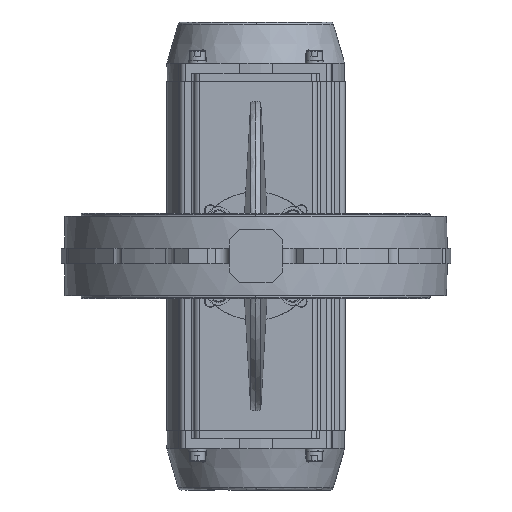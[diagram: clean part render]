
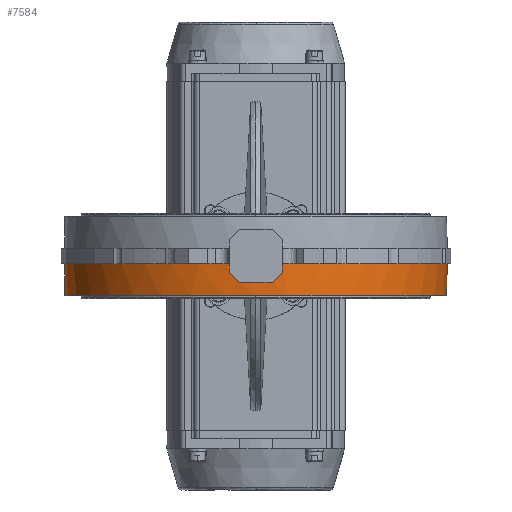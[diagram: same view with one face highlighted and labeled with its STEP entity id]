
A CAD part, front view. The second image highlights one B-rep face of the part: STEP entity #7584.
In plain terms, the highlighted conical face has half-angle 1.013 degrees and reference radius 186.548 mm.
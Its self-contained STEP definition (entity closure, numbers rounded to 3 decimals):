
#906 = VERTEX_POINT ( 'NONE', #5585 ) ;
#1186 = VERTEX_POINT ( 'NONE', #39825 ) ;
#1901 = DIRECTION ( 'NONE',  ( 1., 0., 0. ) ) ;
#2502 = CARTESIAN_POINT ( 'NONE',  ( 26., -184.677, -10.333 ) ) ;
#2597 = EDGE_CURVE ( 'NONE', #55245, #34358, #19814, .T. ) ;
#3256 = CIRCLE ( 'NONE', #24255, 186.548 ) ;
#3595 = CARTESIAN_POINT ( 'NONE',  ( 0., 0., -7.5 ) ) ;
#5585 = CARTESIAN_POINT ( 'NONE',  ( 186.548, 0., -7.5 ) ) ;
#5748 = ORIENTED_EDGE ( 'NONE', *, *, #6726, .T. ) ;
#6107 = DIRECTION ( 'NONE',  ( 1., 0., 0. ) ) ;
#6726 = EDGE_CURVE ( 'NONE', #29551, #36046, #13469, .T. ) ;
#7431 = ORIENTED_EDGE ( 'NONE', *, *, #52706, .F. ) ;
#7584 = ADVANCED_FACE ( 'NONE', ( #57108 ), #50347, .T. ) ;
#7965 = CARTESIAN_POINT ( 'NONE',  ( 26., -184.727, -7.5 ) ) ;
#8298 = DIRECTION ( 'NONE',  ( 1., 0., 0. ) ) ;
#9204 = CARTESIAN_POINT ( 'NONE',  ( -16., -185.532, -26. ) ) ;
#11910 = CARTESIAN_POINT ( 'NONE',  ( -22.676, -184.985, -19.324 ) ) ;
#12113 = B_SPLINE_CURVE_WITH_KNOTS ( 'NONE', 3,
 ( #7965, #2502, #36048, #24750 ),
 .UNSPECIFIED., .F., .F.,
 ( 4, 4 ),
 ( 0., 1. ),
 .UNSPECIFIED. ) ;
#12306 = CARTESIAN_POINT ( 'NONE',  ( 19.342, -185.304, -22.658 ) ) ;
#12570 = AXIS2_PLACEMENT_3D ( 'NONE', #3595, #25837, #6107 ) ;
#13062 = CARTESIAN_POINT ( 'NONE',  ( 26., -184.727, -7.5 ) ) ;
#13077 = VERTEX_POINT ( 'NONE', #17762 ) ;
#13383 = CARTESIAN_POINT ( 'NONE',  ( 0., 0., -7.5 ) ) ;
#13469 =( BOUNDED_CURVE ( )  B_SPLINE_CURVE ( 3, ( #46507, #30143, #12306, #45791 ),
 .UNSPECIFIED., .F., .F. ) 
 B_SPLINE_CURVE_WITH_KNOTS ( ( 4, 4 ),
 ( 1.448, 1.502 ),
 .UNSPECIFIED. ) 
 CURVE ( )  GEOMETRIC_REPRESENTATION_ITEM ( )  RATIONAL_B_SPLINE_CURVE ( ( 1., 1., 1., 1. ) ) 
 REPRESENTATION_ITEM ( '' )  );
#14284 = EDGE_CURVE ( 'NONE', #906, #33794, #3256, .T. ) ;
#15527 = EDGE_CURVE ( 'NONE', #21615, #13077, #71485, .T. ) ;
#17065 = CARTESIAN_POINT ( 'NONE',  ( -26., -184.727, -7.5 ) ) ;
#17762 = CARTESIAN_POINT ( 'NONE',  ( 186., 0., -38.5 ) ) ;
#17962 = CARTESIAN_POINT ( 'NONE',  ( 0., 0., -7.5 ) ) ;
#18498 = VECTOR ( 'NONE', #67276, 1000. ) ;
#19814 = B_SPLINE_CURVE_WITH_KNOTS ( 'NONE', 3,
 ( #54624, #49149, #44032, #17065 ),
 .UNSPECIFIED., .F., .F.,
 ( 4, 4 ),
 ( 0., 1. ),
 .UNSPECIFIED. ) ;
#21615 = VERTEX_POINT ( 'NONE', #25384 ) ;
#23334 = CARTESIAN_POINT ( 'NONE',  ( -26., -184.576, -16. ) ) ;
#24255 = AXIS2_PLACEMENT_3D ( 'NONE', #17962, #51839, #1901 ) ;
#24750 = CARTESIAN_POINT ( 'NONE',  ( 26., -184.576, -16. ) ) ;
#24759 = CIRCLE ( 'NONE', #48015, 186.221 ) ;
#25384 = CARTESIAN_POINT ( 'NONE',  ( -186., 0., -38.5 ) ) ;
#25516 = EDGE_CURVE ( 'NONE', #66484, #55245, #69405, .T. ) ;
#25837 = DIRECTION ( 'NONE',  ( 0., 0., -1. ) ) ;
#26620 = CARTESIAN_POINT ( 'NONE',  ( 16., -185.532, -26. ) ) ;
#28564 = ORIENTED_EDGE ( 'NONE', *, *, #45666, .T. ) ;
#29551 = VERTEX_POINT ( 'NONE', #40404 ) ;
#30143 = CARTESIAN_POINT ( 'NONE',  ( 22.676, -184.985, -19.324 ) ) ;
#30576 = AXIS2_PLACEMENT_3D ( 'NONE', #13383, #41401, #62561 ) ;
#30585 = CARTESIAN_POINT ( 'NONE',  ( 0., 0., -26. ) ) ;
#33794 = VERTEX_POINT ( 'NONE', #13062 ) ;
#34332 = VECTOR ( 'NONE', #57275, 1000. ) ;
#34358 = VERTEX_POINT ( 'NONE', #70837 ) ;
#34503 = CARTESIAN_POINT ( 'NONE',  ( -19.342, -185.304, -22.658 ) ) ;
#36046 = VERTEX_POINT ( 'NONE', #26620 ) ;
#36048 = CARTESIAN_POINT ( 'NONE',  ( 26., -184.626, -13.167 ) ) ;
#36624 = ORIENTED_EDGE ( 'NONE', *, *, #15527, .T. ) ;
#39825 = CARTESIAN_POINT ( 'NONE',  ( -186.548, 0., -7.5 ) ) ;
#40404 = CARTESIAN_POINT ( 'NONE',  ( 26., -184.576, -16. ) ) ;
#41126 = EDGE_CURVE ( 'NONE', #36046, #66484, #24759, .T. ) ;
#41401 = DIRECTION ( 'NONE',  ( 0., 0., 1. ) ) ;
#43940 = CIRCLE ( 'NONE', #12570, 186.548 ) ;
#44022 = EDGE_CURVE ( 'NONE', #13077, #906, #46337, .T. ) ;
#44032 = CARTESIAN_POINT ( 'NONE',  ( -26., -184.677, -10.333 ) ) ;
#44503 = ORIENTED_EDGE ( 'NONE', *, *, #46746, .T. ) ;
#45056 = LINE ( 'NONE', #61465, #18498 ) ;
#45344 = DIRECTION ( 'NONE',  ( 0., 0., 1. ) ) ;
#45666 = EDGE_CURVE ( 'NONE', #33794, #29551, #12113, .T. ) ;
#45791 = CARTESIAN_POINT ( 'NONE',  ( 16., -185.532, -26. ) ) ;
#46088 = ORIENTED_EDGE ( 'NONE', *, *, #14284, .T. ) ;
#46337 = LINE ( 'NONE', #58004, #34332 ) ;
#46507 = CARTESIAN_POINT ( 'NONE',  ( 26., -184.576, -16. ) ) ;
#46746 = EDGE_CURVE ( 'NONE', #34358, #1186, #43940, .T. ) ;
#48015 = AXIS2_PLACEMENT_3D ( 'NONE', #30585, #58977, #8298 ) ;
#49149 = CARTESIAN_POINT ( 'NONE',  ( -26., -184.626, -13.167 ) ) ;
#50347 = CONICAL_SURFACE ( 'NONE', #30576, 186.548, 0.018 ) ;
#51839 = DIRECTION ( 'NONE',  ( 0., 0., -1. ) ) ;
#52706 = EDGE_CURVE ( 'NONE', #21615, #1186, #45056, .T. ) ;
#54624 = CARTESIAN_POINT ( 'NONE',  ( -26., -184.576, -16. ) ) ;
#55245 = VERTEX_POINT ( 'NONE', #23334 ) ;
#57108 = FACE_OUTER_BOUND ( 'NONE', #58548, .T. ) ;
#57275 = DIRECTION ( 'NONE',  ( 0.018, 0., 1. ) ) ;
#58004 = CARTESIAN_POINT ( 'NONE',  ( 186.548, 0., -7.5 ) ) ;
#58058 = ORIENTED_EDGE ( 'NONE', *, *, #41126, .T. ) ;
#58548 = EDGE_LOOP ( 'NONE', ( #7431, #36624, #65312, #46088, #28564, #5748, #58058, #59989, #63467, #44503 ) ) ;
#58977 = DIRECTION ( 'NONE',  ( 0., 0., -1. ) ) ;
#59989 = ORIENTED_EDGE ( 'NONE', *, *, #25516, .T. ) ;
#61465 = CARTESIAN_POINT ( 'NONE',  ( -186.548, 0., -7.5 ) ) ;
#61749 = CARTESIAN_POINT ( 'NONE',  ( 0., 0., -38.5 ) ) ;
#62177 = CARTESIAN_POINT ( 'NONE',  ( -16., -185.532, -26. ) ) ;
#62535 = CARTESIAN_POINT ( 'NONE',  ( -26., -184.576, -16. ) ) ;
#62561 = DIRECTION ( 'NONE',  ( 1., 0., 0. ) ) ;
#63467 = ORIENTED_EDGE ( 'NONE', *, *, #2597, .T. ) ;
#65312 = ORIENTED_EDGE ( 'NONE', *, *, #44022, .T. ) ;
#66484 = VERTEX_POINT ( 'NONE', #9204 ) ;
#67276 = DIRECTION ( 'NONE',  ( -0.018, 0., 1. ) ) ;
#67567 = DIRECTION ( 'NONE',  ( 1., 0., 0. ) ) ;
#67986 = AXIS2_PLACEMENT_3D ( 'NONE', #61749, #45344, #67567 ) ;
#69405 =( BOUNDED_CURVE ( )  B_SPLINE_CURVE ( 3, ( #62177, #34503, #11910, #62535 ),
 .UNSPECIFIED., .F., .T. ) 
 B_SPLINE_CURVE_WITH_KNOTS ( ( 4, 4 ),
 ( 4.781, 4.835 ),
 .UNSPECIFIED. ) 
 CURVE ( )  GEOMETRIC_REPRESENTATION_ITEM ( )  RATIONAL_B_SPLINE_CURVE ( ( 1., 1., 1., 1. ) ) 
 REPRESENTATION_ITEM ( '' )  );
#70837 = CARTESIAN_POINT ( 'NONE',  ( -26., -184.727, -7.5 ) ) ;
#71485 = CIRCLE ( 'NONE', #67986, 186. ) ;
